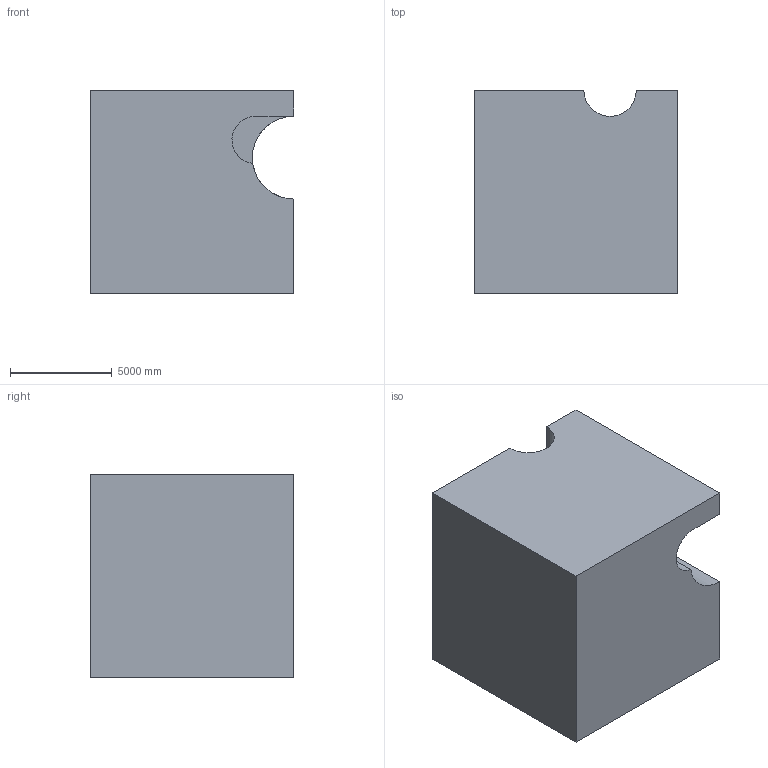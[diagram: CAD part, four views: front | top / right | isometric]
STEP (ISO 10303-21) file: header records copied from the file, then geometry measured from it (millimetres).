
FILE_DESCRIPTION (( 'STEP AP203' ), '1' );
FILE_NAME ('301.STEP', '2022-07-28T14:15:44', ( 'user' ), ( '' ), 'SwSTEP 2.0', 'SolidWorks 2021', '' );
FILE_SCHEMA (( 'CONFIG_CONTROL_DESIGN' ));
Length unit declared in the file: centimetre
Products named in the file (1): 301
Bounding box: 10000 x 10000 x 10000 mm (x, y, z)
Volume: 860217760920.1 mm3; surface area: 638789016.2 mm2
Topology: 1 solids, 1 shells, 17 faces, 44 edges, 29 vertices
Faces by surface type: plane 12, cylinder 5
Entity records: 617 total; most frequent: CARTESIAN_POINT 112, DIRECTION 90, ORIENTED_EDGE 88, EDGE_CURVE 44, LINE 32, VECTOR 32, AXIS2_PLACEMENT_3D 29, VERTEX_POINT 29
